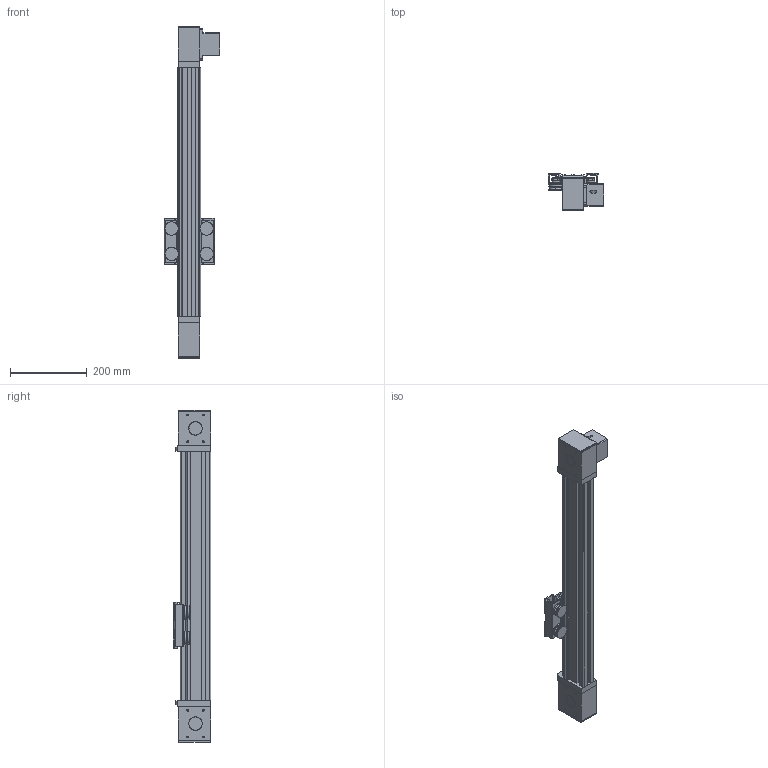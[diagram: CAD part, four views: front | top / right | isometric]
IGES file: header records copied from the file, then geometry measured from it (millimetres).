
Start section: SolidWorks IGES file using analytic representation for surfaces
Global section: file name: C:\Users\tsuch\OneDrive\デスクトップ\(20210628現在)HP用CAD関連\BLS4080A\ﾀﾞｳﾝﾛｰﾄﾞ用\iges形式\BLS4080A.IGS,15HSolidWorks; native system: 2019; preprocessor: SolidWorks 2019; author: tsuch; date: 210712.090838; units: millimetre
Bounding box: 145 x 98 x 866 mm (x, y, z)
Surface area: 810643.5 mm2 (no closed solid volume)
Topology: 0 solids, 0 shells, 841 faces, 11533 edges, 11500 vertices
Faces by surface type: bspline 440, revolution 401
